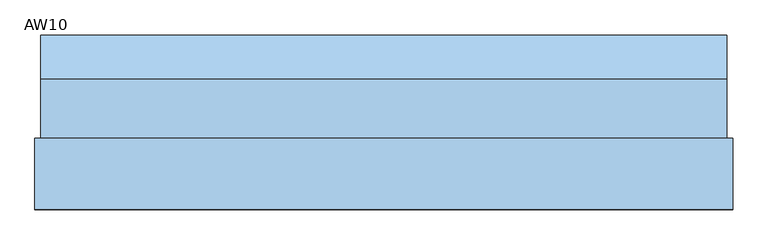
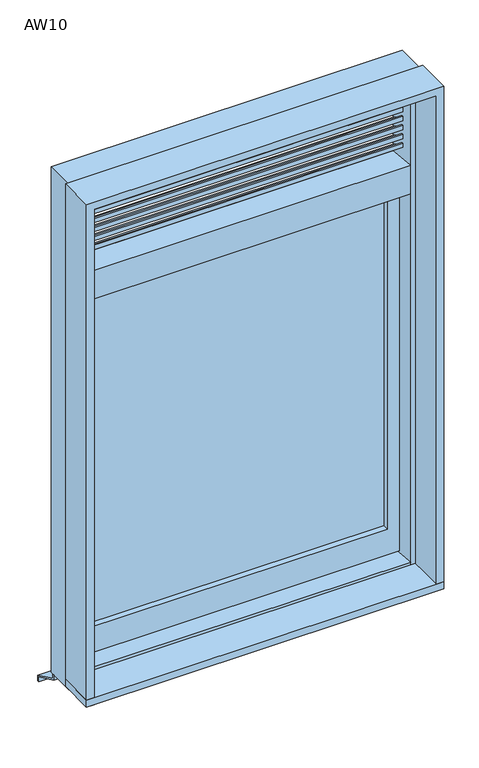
"""IFC4 building model written with IfcOpenShell, lengths in millimetres: window geometry, 営_段窓_縦辷出し/ガラリ : AW10."""

import ifcopenshell
import ifcopenshell.guid

model = None  # the IFC model being written
_history = None  # IfcOwnerHistory: only IFC2X3 demands one
_inside = {}  # id of a spatial element -> (the spatial element, [elements in it])
_under = {}  # id of a project, library or spatial element -> (it, [spatial elements below it])
_declared = {}  # id of a project -> (the project, [libraries it declares])
_typed = {}  # id of a type object -> (the type object, [elements of that type])
_made_of = {}  # id of a material, layer set ... -> (it, [elements and type objects made of it])


def new_model(schema):
    """Start an empty IFC model of exactly this schema.

    Asked for "IFC4X3", IfcOpenShell would pick the latest addendum, in which some entities
    have other attributes; the version numbers below select the first issue.
    IFC2X3 requires an IfcOwnerHistory on every rooted entity: one is made here for all.
    """
    global model, _history
    if schema == "IFC4X3":
        model = ifcopenshell.file(schema_version=(4, 3, 0, 0))
    else:
        model = ifcopenshell.file(schema=schema)
    _inside.clear()
    _under.clear()
    _declared.clear()
    _typed.clear()
    _made_of.clear()
    _history = None
    if model.schema == "IFC2X3":
        org = make("IfcOrganization", Name="unknown")
        user = make(
            "IfcPersonAndOrganization",
            ThePerson=make("IfcPerson", FamilyName="unknown"),
            TheOrganization=org,
        )
        app = make(
            "IfcApplication",
            ApplicationDeveloper=org,
            Version="unknown",
            ApplicationFullName="unknown",
            ApplicationIdentifier="unknown",
        )
        _history = make(
            "IfcOwnerHistory",
            OwningUser=user,
            OwningApplication=app,
            ChangeAction="ADDED",
            CreationDate=0,
        )
    return model


def make(cls, **values):
    """One entity of the class cls with the attributes given. An attribute that is None is left unset."""
    return model.create_entity(
        cls, **{name: value for name, value in values.items() if value is not None}
    )


def rooted(cls, **values):
    """An entity with a GlobalId (a new one), such as an element, a storey or a relation."""
    return make(cls, GlobalId=ifcopenshell.guid.new(), OwnerHistory=_history, **values)


def si_unit(unit_type, name, prefix=None):
    """IfcSIUnit, for example si_unit("LENGTHUNIT", "METRE", prefix="MILLI")."""
    return make("IfcSIUnit", UnitType=unit_type, Prefix=prefix, Name=name)


def assignment(units):
    """IfcUnitAssignment: the units of a project."""
    return None if units is None else make("IfcUnitAssignment", Units=units)


def point(xyz):
    """IfcCartesianPoint."""
    return None if xyz is None else make("IfcCartesianPoint", Coordinates=xyz)


def direction(xyz):
    """IfcDirection."""
    return None if xyz is None else make("IfcDirection", DirectionRatios=xyz)


def frame(location, z_axis=None, x_axis=None):
    """IfcAxis2Placement3D, a coordinate frame: its origin and axes. An axis left out is left unset."""
    return make(
        "IfcAxis2Placement3D",
        Location=point(location),
        Axis=direction(z_axis),
        RefDirection=direction(x_axis),
    )


def origin():
    """The frame at (0, 0, 0) with its axes left unset."""
    return frame((0.0, 0.0, 0.0))


def place(relative_to, where):
    """IfcLocalPlacement: puts the frame where relative to a parent placement (None: the world)."""
    return make(
        "IfcLocalPlacement", PlacementRelTo=relative_to, RelativePlacement=where
    )


def context(
    kind, dimensions, precision=None, world=None, true_north=None, identifier=None
):
    """IfcGeometricRepresentationContext, for example the 3D "Model" context."""
    return make(
        "IfcGeometricRepresentationContext",
        ContextIdentifier=identifier,
        ContextType=kind,
        CoordinateSpaceDimension=dimensions,
        Precision=precision,
        WorldCoordinateSystem=world,
        TrueNorth=true_north,
    )


def project(units=None, contexts=None):
    """IfcProject with its units and contexts."""
    return rooted(
        "IfcProject",
        Name="project",
        RepresentationContexts=contexts,
        UnitsInContext=assignment(units),
    )


def spatial(cls, under=None, at=None, **own):
    """A site, building, storey or space (cls), placed at a placement, below another one or the project."""
    s = rooted(cls, ObjectPlacement=at, **own)
    if under is not None:
        _under.setdefault(under.id(), (under, []))[1].append(s)
    return s


def polyline(points):
    """IfcPolyline through the points."""
    return make("IfcPolyline", Points=[point(p) for p in points])


def outline(outer, holes=None, kind="AREA"):
    """IfcArbitraryClosedProfileDef: a profile drawn as a closed curve; with holes, ...WithVoids."""
    if holes is None:
        return make("IfcArbitraryClosedProfileDef", ProfileType=kind, OuterCurve=outer)
    return make(
        "IfcArbitraryProfileDefWithVoids",
        ProfileType=kind,
        OuterCurve=outer,
        InnerCurves=holes,
    )


def extrude(swept, where, along, depth):
    """IfcExtrudedAreaSolid: the profile swept, set in the frame where, extruded along a direction by depth."""
    return make(
        "IfcExtrudedAreaSolid",
        SweptArea=swept,
        Position=where,
        ExtrudedDirection=direction(along),
        Depth=depth,
    )


def shape(context_of_items, identifier, shape_type, items):
    """IfcShapeRepresentation: the items that make up one representation, for example the "Body"."""
    return make(
        "IfcShapeRepresentation",
        ContextOfItems=context_of_items,
        RepresentationIdentifier=identifier,
        RepresentationType=shape_type,
        Items=items,
    )


def source(mapping_origin, context_of_items, identifier, shape_type, items):
    """IfcRepresentationMap: a shape defined once, which mapped items show again and again."""
    return make(
        "IfcRepresentationMap",
        MappingOrigin=mapping_origin,
        MappedRepresentation=shape(context_of_items, identifier, shape_type, items),
    )


def transform(
    local_origin,
    x_axis=None,
    y_axis=None,
    z_axis=None,
    scale=None,
    scale2=None,
    scale3=None,
    uniform=True,
):
    """IfcCartesianTransformationOperator3D, or its non-uniform kind. x_axis, y_axis, z_axis: its Axis1, 2, 3."""
    if uniform:
        return make(
            "IfcCartesianTransformationOperator3D",
            Axis1=direction(x_axis),
            Axis2=direction(y_axis),
            LocalOrigin=point(local_origin),
            Scale=scale,
            Axis3=direction(z_axis),
        )
    return make(
        "IfcCartesianTransformationOperator3DnonUniform",
        Axis1=direction(x_axis),
        Axis2=direction(y_axis),
        LocalOrigin=point(local_origin),
        Scale=scale,
        Axis3=direction(z_axis),
        Scale2=scale2,
        Scale3=scale3,
    )


def mapped(mapping_source, mapping_target):
    """IfcMappedItem: shows the shape of a source again, moved by a transform."""
    return make(
        "IfcMappedItem", MappingSource=mapping_source, MappingTarget=mapping_target
    )


def made_of(thing, what):
    """Note that an element or type object is made of a material, layer set ...; save() writes the relation."""
    if what is not None:
        _made_of.setdefault(what.id(), (what, []))[1].append(thing)
    return thing


def element(
    cls,
    number,
    at=None,
    inside=None,
    cuts=None,
    type_object=None,
    material=None,
    context=None,
    identifier="Body",
    shape_type=None,
    held_by="IfcProductDefinitionShape",
    body=None,
    shapes=None,
    **own,
):
    """One element of the class cls, such as IfcWall. Its Tag is "e" and its number.

    at: its placement. inside: the storey or other place that contains it. cuts: it is an
    opening in that element (IfcRelVoidsElement). A single representation is given by context,
    identifier, shape_type and body (its items); several are given by shapes. held_by: the class
    of the entity that holds the representations. save() writes the other relations.
    """
    e = rooted(cls, Tag="e%d" % number, ObjectPlacement=at, **own)
    if body is not None:
        shapes = [shape(context, identifier, shape_type, body)]
    if shapes is not None:
        e.Representation = make(held_by, Representations=shapes)
    if inside is not None:
        _inside.setdefault(inside.id(), (inside, []))[1].append(e)
    if cuts is not None:
        rooted(
            "IfcRelVoidsElement", RelatingBuildingElement=cuts, RelatedOpeningElement=e
        )
    if type_object is not None:
        _typed.setdefault(type_object.id(), (type_object, []))[1].append(e)
    return made_of(e, material)


def aggregate(whole, parts):
    """IfcRelAggregates: a whole, such as a stair, and the parts it consists of."""
    return rooted("IfcRelAggregates", RelatingObject=whole, RelatedObjects=parts)


def save(model, path):
    """Write the relations noted so far, then the file.

    IfcRelAggregates (storeys below a building ...), IfcRelContainedInSpatialStructure (elements
    in a storey), IfcRelDefinesByType, IfcRelAssociatesMaterial and IfcRelDeclares: one each for
    every whole, place, type object, material and project.
    """
    for whole, parts in _under.values():
        aggregate(whole, parts)
    for where, things in _inside.values():
        rooted(
            "IfcRelContainedInSpatialStructure",
            RelatedElements=things,
            RelatingStructure=where,
        )
    for kind, things in _typed.values():
        rooted("IfcRelDefinesByType", RelatedObjects=things, RelatingType=kind)
    for what, things in _made_of.values():
        rooted("IfcRelAssociatesMaterial", RelatedObjects=things, RelatingMaterial=what)
    for by, libraries in _declared.values():
        rooted("IfcRelDeclares", RelatingContext=by, RelatedDefinitions=libraries)
    model.write(path)


def aw10_0bdcc74c(model_context):
    return source(origin(), model_context, "Body", "SweptSolid", [
        extrude(outline(polyline([(20.0, 2721.9993654), (20.0, 2703.75), (15.0, 2703.75), (15.0, 2718.75), (-30.0, 2738.75), (-30.0, 2753.75), (-25.0, 2753.75), (-25.0, 2741.9993654), (20.0, 2721.9993654)])), frame((-550.0, 0.0, 0.0), z_axis=(1.0, 0.0, 0.0), x_axis=(0.0, 1.0, 0.0)), (0.0, 0.0, 1.0), 1100.0),
        extrude(outline(polyline([(20.0, 2690.7493654), (20.0, 2672.5), (15.0, 2672.5), (15.0, 2687.5), (-30.0, 2707.5), (-30.0, 2722.5), (-25.0, 2722.5), (-25.0, 2710.7493654), (20.0, 2690.7493654)])), frame((-550.0, 0.0, 0.0), z_axis=(1.0, 0.0, 0.0), x_axis=(0.0, 1.0, 0.0)), (0.0, 0.0, 1.0), 1100.0),
        extrude(outline(polyline([(20.0, 2659.4993654), (20.0, 2641.25), (15.0, 2641.25), (15.0, 2656.25), (-30.0, 2676.25), (-30.0, 2691.25), (-25.0, 2691.25), (-25.0, 2679.4993654), (20.0, 2659.4993654)])), frame((-550.0, 0.0, 0.0), z_axis=(1.0, 0.0, 0.0), x_axis=(0.0, 1.0, 0.0)), (0.0, 0.0, 1.0), 1100.0),
        extrude(outline(polyline([(20.0, 2628.2493654), (20.0, 2610.0), (15.0, 2610.0), (15.0, 2625.0), (-30.0, 2645.0), (-30.0, 2660.0), (-25.0, 2660.0), (-25.0, 2648.2493654), (20.0, 2628.2493654)])), frame((-550.0, 0.0, 0.0), z_axis=(1.0, 0.0, 0.0), x_axis=(0.0, 1.0, 0.0)), (0.0, 0.0, 1.0), 1100.0),
        extrude(outline(polyline([(20.0, 2596.9993654), (20.0, 2578.75), (15.0, 2578.75), (15.0, 2593.75), (-30.0, 2613.75), (-30.0, 2628.75), (-25.0, 2628.75), (-25.0, 2616.9993654), (20.0, 2596.9993654)])), frame((-550.0, 0.0, 0.0), z_axis=(1.0, 0.0, 0.0), x_axis=(0.0, 1.0, 0.0)), (0.0, 0.0, 1.0), 1100.0),
        extrude(outline(polyline([(20.0, 2565.7493654), (20.0, 2547.5), (15.0, 2547.5), (15.0, 2562.5), (-30.0, 2582.5), (-30.0, 2597.5), (-25.0, 2597.5), (-25.0, 2585.7493654), (20.0, 2565.7493654)])), frame((-550.0, 0.0, 0.0), z_axis=(1.0, 0.0, 0.0), x_axis=(0.0, 1.0, 0.0)), (0.0, 0.0, 1.0), 1100.0),
        extrude(outline(polyline([(20.0, 2534.4993654), (20.0, 2516.25), (15.0, 2516.25), (15.0, 2531.25), (-30.0, 2551.25), (-30.0, 2566.25), (-25.0, 2566.25), (-25.0, 2554.4993654), (20.0, 2534.4993654)])), frame((-550.0, 0.0, 0.0), z_axis=(1.0, 0.0, 0.0), x_axis=(0.0, 1.0, 0.0)), (0.0, 0.0, 1.0), 1100.0),
        extrude(outline(polyline([(20.0, 2753.2493654), (20.0, 2735.0), (15.0, 2735.0), (15.0, 2750.0), (-30.0, 2770.0), (-30.0, 2785.0), (-25.0, 2785.0), (-25.0, 2773.2493654), (20.0, 2753.2493654)])), frame((-550.0, 0.0, 0.0), z_axis=(1.0, 0.0, 0.0), x_axis=(0.0, 1.0, 0.0)), (0.0, 0.0, 1.0), 1100.0),
        extrude(outline(polyline([(20.0, 2503.2493654), (20.0, 2485.0), (15.0, 2485.0), (15.0, 2500.0), (-30.0, 2520.0), (-30.0, 2535.0), (-25.0, 2535.0), (-25.0, 2523.2493654), (20.0, 2503.2493654)])), frame((-550.0, 0.0, 0.0), z_axis=(1.0, 0.0, 0.0), x_axis=(0.0, 1.0, 0.0)), (0.0, 0.0, 1.0), 1100.0),
        extrude(outline(polyline([(510.0, 10.0), (-510.0, 10.0), (-510.0, 15.0), (510.0, 15.0), (510.0, 10.0)])), frame((0.0, 0.0, 1190.0), z_axis=(0.0, 0.0, 1.0), x_axis=(1.0, 0.0, 0.0)), (0.0, 0.0, 1.0), 1155.0),
        extrude(outline(polyline([(2385.0, 550.0), (2385.0, -550.0), (1100.0, -550.0), (1100.0, 550.0), (2385.0, 550.0)]), holes=[polyline([(2345.0, 510.0), (1190.0, 510.0), (1190.0, -510.0), (2345.0, -510.0), (2345.0, 510.0)])]), frame((0.0, -10.0, 0.0), z_axis=(0.0, 1.0, 0.0), x_axis=(0.0, 0.0, 1.0)), (0.0, 0.0, 1.0), 30.0),
        extrude(outline(polyline([(590.0, -195.0), (-590.0, -195.0), (-590.0, -75.0), (590.0, -75.0), (590.0, -195.0)])), frame((0.0, 0.0, 1065.0), z_axis=(0.0, 0.0, 1.0), x_axis=(1.0, 0.0, 0.0)), (0.0, 0.0, 1.0), 25.0),
        extrude(outline(polyline([(15.0, 1035.0), (100.0, 995.0), (100.0, 975.0), (95.0014518, 975.0), (95.0014518, 991.8262891), (10.0, 1031.8269723), (10.0, 1050.0), (15.0, 1050.0), (15.0, 1035.0)])), frame((-580.0, 0.0, 0.0), z_axis=(1.0, 0.0, 0.0), x_axis=(0.0, 1.0, 0.0)), (0.0, 0.0, 1.0), 1160.0),
        extrude(outline(polyline([(1065.0, -590.0), (1065.0, -565.0), (2795.0, -565.0), (2795.0, 565.0), (1065.0, 565.0), (1065.0, 590.0), (2820.0, 590.0), (2820.0, -590.0), (1065.0, -590.0)])), frame((0.0, -195.0, 0.0), z_axis=(0.0, 1.0, 0.0), x_axis=(0.0, 0.0, 1.0)), (0.0, 0.0, 1.0), 120.0),
        extrude(outline(polyline([(1050.0, -580.0), (1050.0, -550.0), (2785.0, -550.0), (2785.0, 550.0), (1050.0, 550.0), (1050.0, 580.0), (2815.0, 580.0), (2815.0, -580.0), (1050.0, -580.0)])), frame((0.0, -75.0, 0.0), z_axis=(0.0, 1.0, 0.0), x_axis=(0.0, 0.0, 1.0)), (0.0, 0.0, 1.0), 100.0),
        extrude(outline(polyline([(-75.0, 1050.0), (-75.0, 1100.0), (25.0, 1090.6666667), (25.0, 1050.0), (-75.0, 1050.0)])), frame((-550.0, 0.0, 0.0), z_axis=(1.0, 0.0, 0.0), x_axis=(0.0, 1.0, 0.0)), (0.0, 0.0, 1.0), 1100.0),
        extrude(outline(polyline([(25.0, 2385.0), (-75.0, 2385.0), (-75.0, 2485.0), (25.0, 2475.0), (25.0, 2385.0)])), frame((-550.0, 0.0, 0.0), z_axis=(1.0, 0.0, 0.0), x_axis=(0.0, 1.0, 0.0)), (0.0, 0.0, 1.0), 1100.0),
    ])


if __name__ == "__main__":
    model = new_model("IFC4")
    model_context = context("Model", 3, world=origin())
    ifc_project = project(units=[si_unit("LENGTHUNIT", "METRE", prefix="MILLI")], contexts=[model_context])
    site = spatial("IfcSite", under=ifc_project)
    building = spatial("IfcBuilding", under=site)
    placement = place(None, origin())
    aw10_shape = aw10_0bdcc74c(model_context)
    element("IfcWindow", 1, ObjectType="営_段窓_縦辷出し/ガラリ : AW10", at=placement, inside=building, context=model_context, shape_type="MappedRepresentation", body=[
        mapped(aw10_shape, transform((0.0, 0.0, 0.0), x_axis=(1.0, 0.0, 0.0), y_axis=(0.0, 1.0, 0.0), z_axis=(0.0, 0.0, 1.0))),
    ])
    save(model, "model.ifc")
